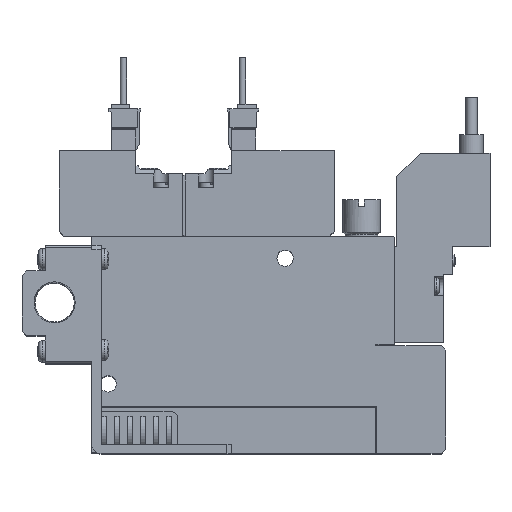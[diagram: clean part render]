
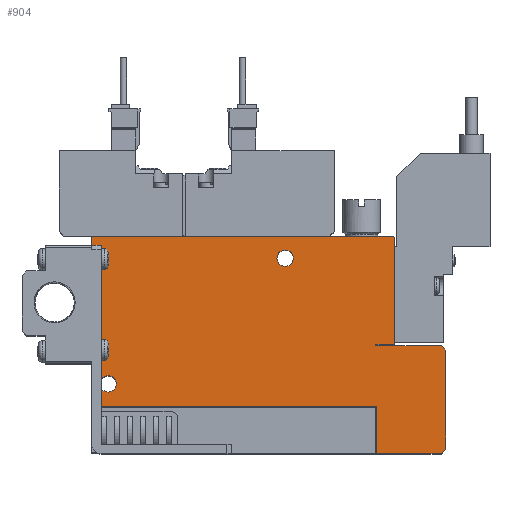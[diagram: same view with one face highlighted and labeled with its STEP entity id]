
A CAD part, top view. The second image highlights one B-rep face of the part: STEP entity #904.
In plain terms, the highlighted planar face has unit normal (0, 0, 1).
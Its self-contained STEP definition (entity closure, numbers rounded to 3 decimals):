
#904=ADVANCED_FACE('',(#2103,#2104,#2105),#2106,.F.);
#2103=FACE_OUTER_BOUND('',#3686,.T.);
#2104=FACE_BOUND('',#3687,.T.);
#2105=FACE_BOUND('',#3688,.T.);
#2106=PLANE('',#3689);
#3686=EDGE_LOOP('',(#7908,#7909,#7910,#7911,#7912,#7913,#7914,#7915,#7916,#7917,#7918,#7919,#7920,#7921));
#3687=EDGE_LOOP('',(#7922));
#3688=EDGE_LOOP('',(#7923));
#3689=AXIS2_PLACEMENT_3D('',#7924,#7925,#7926);
#7908=ORIENTED_EDGE('',*,*,#10854,.T.);
#7909=ORIENTED_EDGE('',*,*,#10766,.F.);
#7910=ORIENTED_EDGE('',*,*,#11031,.F.);
#7911=ORIENTED_EDGE('',*,*,#10861,.T.);
#7912=ORIENTED_EDGE('',*,*,#10668,.T.);
#7913=ORIENTED_EDGE('',*,*,#10905,.T.);
#7914=ORIENTED_EDGE('',*,*,#11030,.T.);
#7915=ORIENTED_EDGE('',*,*,#10897,.T.);
#7916=ORIENTED_EDGE('',*,*,#10884,.T.);
#7917=ORIENTED_EDGE('',*,*,#11035,.T.);
#7918=ORIENTED_EDGE('',*,*,#11010,.T.);
#7919=ORIENTED_EDGE('',*,*,#10925,.T.);
#7920=ORIENTED_EDGE('',*,*,#10987,.T.);
#7921=ORIENTED_EDGE('',*,*,#10690,.T.);
#7922=ORIENTED_EDGE('',*,*,#11005,.F.);
#7923=ORIENTED_EDGE('',*,*,#10955,.F.);
#7924=CARTESIAN_POINT('',(0.0,0.0,5.0));
#7925=DIRECTION('',(0.0,0.0,-1.0));
#7926=DIRECTION('',(0.0,-1.0,0.0));
#10668=EDGE_CURVE('',#12944,#12942,#12945,.T.);
#10690=EDGE_CURVE('',#12987,#12985,#12988,.T.);
#10766=EDGE_CURVE('',#13128,#13129,#13130,.T.);
#10854=EDGE_CURVE('',#12985,#13129,#13291,.T.);
#10861=EDGE_CURVE('',#13299,#12944,#13302,.T.);
#10884=EDGE_CURVE('',#13341,#13339,#13342,.T.);
#10897=EDGE_CURVE('',#13364,#13341,#13365,.T.);
#10905=EDGE_CURVE('',#12942,#13375,#13377,.T.);
#10925=EDGE_CURVE('',#13410,#13408,#13411,.T.);
#10955=EDGE_CURVE('',#13450,#13450,#13451,.T.);
#10987=EDGE_CURVE('',#13408,#12987,#13492,.T.);
#11005=EDGE_CURVE('',#13514,#13514,#13515,.T.);
#11010=EDGE_CURVE('',#13520,#13410,#13521,.T.);
#11030=EDGE_CURVE('',#13375,#13364,#13548,.T.);
#11031=EDGE_CURVE('',#13299,#13128,#13549,.T.);
#11035=EDGE_CURVE('',#13339,#13520,#13554,.T.);
#12942=VERTEX_POINT('',#16741);
#12944=VERTEX_POINT('',#16744);
#12945=LINE('',#16745,#16746);
#12985=VERTEX_POINT('',#16800);
#12987=VERTEX_POINT('',#16803);
#12988=LINE('',#16804,#16805);
#13128=VERTEX_POINT('',#17084);
#13129=VERTEX_POINT('',#17085);
#13130=LINE('',#17086,#17087);
#13291=LINE('',#17375,#17376);
#13299=VERTEX_POINT('',#17388);
#13302=LINE('',#17393,#17394);
#13339=VERTEX_POINT('',#17464);
#13341=VERTEX_POINT('',#17467);
#13342=LINE('',#17468,#17469);
#13364=VERTEX_POINT('',#17500);
#13365=LINE('',#17501,#17502);
#13375=VERTEX_POINT('',#17516);
#13377=LINE('',#17519,#17520);
#13408=VERTEX_POINT('',#17573);
#13410=VERTEX_POINT('',#17576);
#13411=LINE('',#17577,#17578);
#13450=VERTEX_POINT('',#17642);
#13451=CIRCLE('',#17643,1.75);
#13492=LINE('',#17718,#17719);
#13514=VERTEX_POINT('',#17756);
#13515=CIRCLE('',#17757,1.75);
#13520=VERTEX_POINT('',#17766);
#13521=LINE('',#17767,#17768);
#13548=LINE('',#17812,#17813);
#13549=LINE('',#17814,#17815);
#13554=LINE('',#17822,#17823);
#16741=CARTESIAN_POINT('',(76.0,1.0,5.0));
#16744=CARTESIAN_POINT('',(75.0,0.0,5.0));
#16745=CARTESIAN_POINT('',(75.0,0.0,5.0));
#16746=VECTOR('',#20934,1.0);
#16800=CARTESIAN_POINT('',(0.0,46.4,5.0));
#16803=CARTESIAN_POINT('',(0.2,46.6,5.0));
#16804=CARTESIAN_POINT('',(0.2,46.6,5.0));
#16805=VECTOR('',#20968,1.0);
#17084=CARTESIAN_POINT('',(61.1,10.1,5.0));
#17085=CARTESIAN_POINT('',(0.0,10.1,5.0));
#17086=CARTESIAN_POINT('',(61.1,10.1,5.0));
#17087=VECTOR('',#21074,1.0);
#17375=CARTESIAN_POINT('',(0.0,46.4,5.0));
#17376=VECTOR('',#21178,1.0);
#17388=CARTESIAN_POINT('',(61.1,0.0,5.0));
#17393=CARTESIAN_POINT('',(0.0,0.0,5.0));
#17394=VECTOR('',#21185,1.0);
#17464=CARTESIAN_POINT('',(61.0,23.5,5.0));
#17467=CARTESIAN_POINT('',(61.0,23.25,5.0));
#17468=CARTESIAN_POINT('',(61.0,23.25,5.0));
#17469=VECTOR('',#21216,1.0);
#17500=CARTESIAN_POINT('',(75.0,23.25,5.0));
#17501=CARTESIAN_POINT('',(75.0,23.25,5.0));
#17502=VECTOR('',#21235,1.0);
#17516=CARTESIAN_POINT('',(76.0,22.25,5.0));
#17519=CARTESIAN_POINT('',(76.0,1.0,5.0));
#17520=VECTOR('',#21247,1.0);
#17573=CARTESIAN_POINT('',(64.8,46.6,5.0));
#17576=CARTESIAN_POINT('',(65.0,46.4,5.0));
#17577=CARTESIAN_POINT('',(65.0,46.4,5.0));
#17578=VECTOR('',#21276,1.0);
#17642=CARTESIAN_POINT('',(43.25,42.0,5.0));
#17643=AXIS2_PLACEMENT_3D('',#21314,#21315,#21316);
#17718=CARTESIAN_POINT('',(64.8,46.6,5.0));
#17719=VECTOR('',#21359,1.0);
#17756=CARTESIAN_POINT('',(5.25,15.0,5.0));
#17757=AXIS2_PLACEMENT_3D('',#21381,#21382,#21383);
#17766=CARTESIAN_POINT('',(65.0,23.5,5.0));
#17767=CARTESIAN_POINT('',(65.0,23.5,5.0));
#17768=VECTOR('',#21388,1.0);
#17812=CARTESIAN_POINT('',(76.0,22.25,5.0));
#17813=VECTOR('',#21412,1.0);
#17814=CARTESIAN_POINT('',(61.1,0.0,5.0));
#17815=VECTOR('',#21413,1.0);
#17822=CARTESIAN_POINT('',(61.0,23.5,5.0));
#17823=VECTOR('',#21419,1.0);
#20934=DIRECTION('',(0.707,0.707,0.0));
#20968=DIRECTION('',(-0.707,-0.707,0.0));
#21074=DIRECTION('',(-1.0,0.0,0.0));
#21178=DIRECTION('',(0.0,-1.0,0.0));
#21185=DIRECTION('',(1.0,0.0,0.0));
#21216=DIRECTION('',(0.0,1.0,0.0));
#21235=DIRECTION('',(-1.0,0.0,0.0));
#21247=DIRECTION('',(0.0,1.0,0.0));
#21276=DIRECTION('',(-0.707,0.707,0.0));
#21314=CARTESIAN_POINT('',(41.5,42.0,5.0));
#21315=DIRECTION('',(0.0,0.0,1.0));
#21316=DIRECTION('',(1.0,0.0,0.0));
#21359=DIRECTION('',(-1.0,0.0,0.0));
#21381=CARTESIAN_POINT('',(3.5,15.0,5.0));
#21382=DIRECTION('',(0.0,0.0,1.0));
#21383=DIRECTION('',(1.0,0.0,0.0));
#21388=DIRECTION('',(0.0,1.0,0.0));
#21412=DIRECTION('',(-0.707,0.707,0.0));
#21413=DIRECTION('',(0.0,1.0,0.0));
#21419=DIRECTION('',(1.0,0.,0.0));
